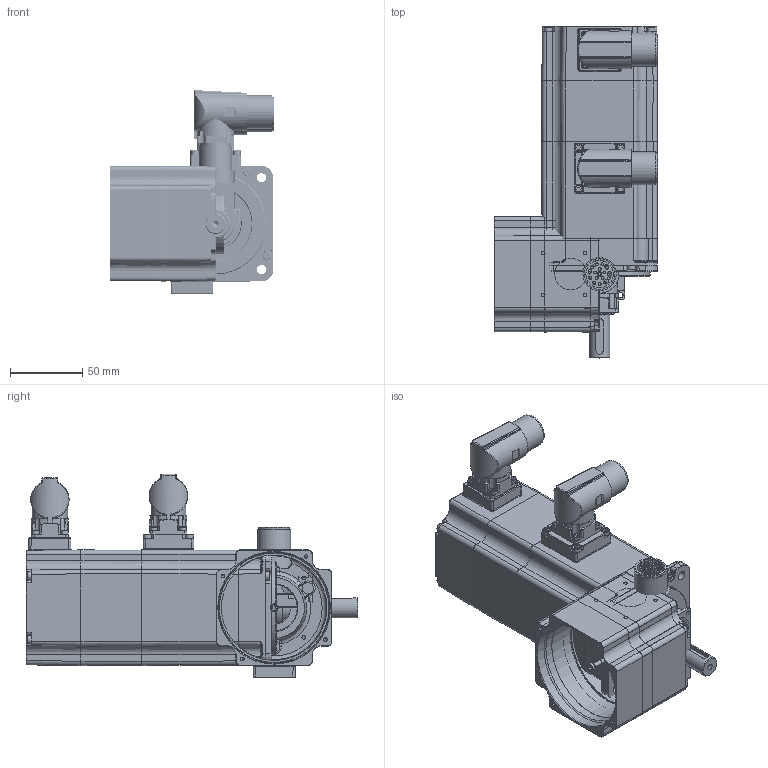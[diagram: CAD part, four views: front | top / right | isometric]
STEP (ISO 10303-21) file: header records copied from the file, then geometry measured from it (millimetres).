
FILE_DESCRIPTION( ( 'Unknown' ), '1' );
FILE_NAME( 'K:/121010-AL Files 3D Step con chiavetta/Q0B262_1,5.stp', 'Unknown', ( 'Unknown' ), ( 'Unknown' ), 'PSStep 14.0', 'Unknown', ' ' );
FILE_SCHEMA( ( 'AUTOMOTIVE_DESIGN { 1 0 10303 214 1 1 1 1 }' ) );
Length unit declared in the file: millimetre
Products named in the file (52): Assem1; N33250; Anello-elastico-chiuso  42; a-ela  20; LI-PIA   5x5 x 25; n09244; N35210; N45204; N27221; N11235; CUSC_20_42_12_6004_ZZ; CUSC_15_32_9_6002_ZZ; Vite a brugola testa cil 8,8 -  M  3 x 25; Vite a brugola testa cil 8,8 -  M  3 x 25-oa0; Vite a brugola testa cil 8,8 -  M  3 x 25-oa1; Vite a brugola testa cil 8,8 -  M  3 x 25-oa2; Vite a brugola testa cil 8,8 -  M  3 x 12; Vite a brugola testa cil 8,8 -  M  3 x 12-oa3; Vite a brugola testa cil 8,8 -  M  3 x 12-oa4; Vite a brugola testa cil 8,8 -  M  3 x 12-oa5; Vite a brugola testa cil 8,8 -  M  3 x 40; Vite a brugola testa cil 8,8 -  M  3 x 40-oa6; Vite a brugola testa cil 8,8 -  M  3 x 40-oa7; Vite a brugola testa cil 8,8 -  M  3 x 40-oa8; Vite a brugola testa cil 8,8 -  M  3 x 40-oa9; Vite a brugola testa cil 8,8 -  M  3 x 40-oa10; Vite a brugola testa cil 8,8 -  M  3 x 40-oa11; Vite a brugola testa cil 8,8 -  M  3 x 40-oa12; Vite a brugola testa cil 8,8 -  M 2,5 x 8; Vite a brugola testa cil 8,8 -  M 2,5 x 8-oa13; Vite a brugola testa cil 8,8 -  M 2,5 x 8-oa14; Vite a brugola testa cil 8,8 -  M 2,5 x 8-oa15; Vite a brugola testa cil 8,8 -  M 2,5 x 8-oa16; Vite a brugola testa cil 8,8 -  M 2,5 x 8-oa17; Vite a brugola testa cil 8,8 -  M 2,5 x 8-oa18; Vite a brugola testa cil 8,8 -  M 2,5 x 8-oa19; CN M23 PAN-POT BEDC 110 4+4 pin 90°o SpTcR; CN M23 PAN-SEG AEDC 139 17 pin 90°o SpTcR; N01385
Bounding box: 113.35 x 229.64 x 140.96 mm (x, y, z)
Volume: 953862.7 mm3; surface area: 430262.9 mm2
Topology: 102 solids, 106 shells, 3710 faces, 8894 edges, 5668 vertices
Faces by surface type: plane 1794, cylinder 1018, torus 318, cone 310, bspline 174, extrusion 62, sphere 34
Full cylindrical faces by diameter (mm): 2 x54, 2.013 x10, 2.459 x50, 2.5 x20, 2.7 x16, 3 x40, 3.5 x38, 4.2 x2, 4.7 x16, 5.5 x32, 6 x10, 8 x8, 14 x4, 14.001 x2, 15 x4, 15.001 x2, 17 x4, 19 x2, 19.8 x4, 20 x12, 20.44 x8, 21.3 x4, 22 x4, 23 x4, 24.5 x4, 26 x2, 26.56 x8, 27.04 x8, 32 x6, 32.2 x4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
Entity records: 71762 total; most frequent: CARTESIAN_POINT 17241, DIRECTION 8679, ORIENTED_EDGE 7838, EDGE_CURVE 3919, AXIS2_PLACEMENT_3D 3230, VERTEX_POINT 2720, EDGE_LOOP 2506, VECTOR 2219
